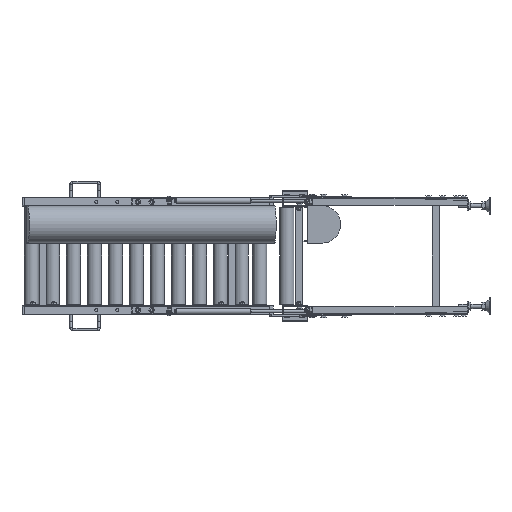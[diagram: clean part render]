
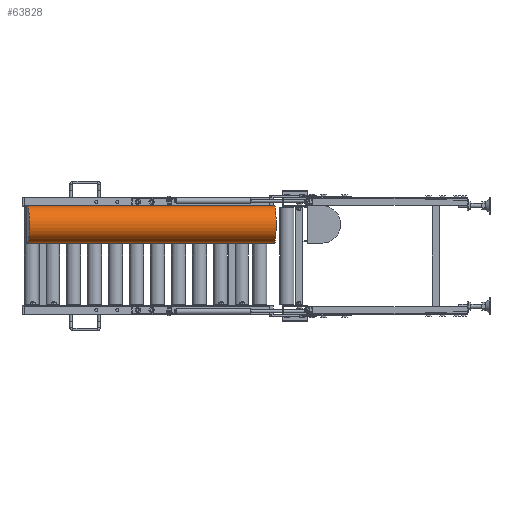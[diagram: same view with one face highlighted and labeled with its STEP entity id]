
A CAD part, left-side view. The second image highlights one B-rep face of the part: STEP entity #63828.
In plain terms, the highlighted cylindrical face has radius 66.89 mm (diameter 133.78 mm), a partial arc.
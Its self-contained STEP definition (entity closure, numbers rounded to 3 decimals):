
#664 = DIRECTION ( 'NONE',  ( 0., 0., 1. ) ) ;
#894 = CARTESIAN_POINT ( 'NONE',  ( -63.444, -158.438, 45.72 ) ) ;
#6859 = CIRCLE ( 'NONE', #53267, 66.89 ) ;
#10911 = VECTOR ( 'NONE', #59822, 1000. ) ;
#12700 = EDGE_LOOP ( 'NONE', ( #13209, #75561, #55033, #44538 ) ) ;
#12736 = VERTEX_POINT ( 'NONE', #60255 ) ;
#13209 = ORIENTED_EDGE ( 'NONE', *, *, #72208, .F. ) ;
#13530 = DIRECTION ( 'NONE',  ( -0.087, 0.996, 0. ) ) ;
#18155 = DIRECTION ( 'NONE',  ( -0.087, 0.996, 0. ) ) ;
#18321 = VERTEX_POINT ( 'NONE', #19798 ) ;
#19798 = CARTESIAN_POINT ( 'NONE',  ( -155.735, 897.187, 45.72 ) ) ;
#19893 = VERTEX_POINT ( 'NONE', #37710 ) ;
#22412 = FACE_OUTER_BOUND ( 'NONE', #12700, .T. ) ;
#22710 = CARTESIAN_POINT ( 'NONE',  ( -155.735, 897.187, 112.61 ) ) ;
#26678 = DIRECTION ( 'NONE',  ( 0., 0., -1. ) ) ;
#27183 = CARTESIAN_POINT ( 'NONE',  ( -78.917, 18.539, 112.61 ) ) ;
#28184 = AXIS2_PLACEMENT_3D ( 'NONE', #58654, #18155, #664 ) ;
#28840 = AXIS2_PLACEMENT_3D ( 'NONE', #27183, #33061, #26678 ) ;
#29696 = VECTOR ( 'NONE', #13530, 1000. ) ;
#33061 = DIRECTION ( 'NONE',  ( 0.087, -0.996, 0. ) ) ;
#34263 = DIRECTION ( 'NONE',  ( 0., 0., 1. ) ) ;
#36821 = CARTESIAN_POINT ( 'NONE',  ( -63.444, -158.438, 179.5 ) ) ;
#37141 = CYLINDRICAL_SURFACE ( 'NONE', #28184, 66.89 ) ;
#37710 = CARTESIAN_POINT ( 'NONE',  ( -78.917, 18.539, 45.72 ) ) ;
#39318 = EDGE_CURVE ( 'NONE', #66588, #12736, #51044, .T. ) ;
#43674 = CARTESIAN_POINT ( 'NONE',  ( -78.917, 18.539, 179.5 ) ) ;
#44538 = ORIENTED_EDGE ( 'NONE', *, *, #50698, .F. ) ;
#47852 = EDGE_CURVE ( 'NONE', #12736, #18321, #6859, .T. ) ;
#50698 = EDGE_CURVE ( 'NONE', #19893, #18321, #65316, .T. ) ;
#51044 = LINE ( 'NONE', #36821, #29696 ) ;
#52138 = DIRECTION ( 'NONE',  ( 0.087, -0.996, 0. ) ) ;
#53267 = AXIS2_PLACEMENT_3D ( 'NONE', #22710, #52138, #34263 ) ;
#55033 = ORIENTED_EDGE ( 'NONE', *, *, #47852, .T. ) ;
#58654 = CARTESIAN_POINT ( 'NONE',  ( -63.444, -158.438, 112.61 ) ) ;
#59822 = DIRECTION ( 'NONE',  ( -0.087, 0.996, 0. ) ) ;
#60255 = CARTESIAN_POINT ( 'NONE',  ( -155.735, 897.187, 179.5 ) ) ;
#63828 = ADVANCED_FACE ( 'NONE', ( #22412 ), #37141, .T. ) ;
#65316 = LINE ( 'NONE', #894, #10911 ) ;
#66588 = VERTEX_POINT ( 'NONE', #43674 ) ;
#69137 = CIRCLE ( 'NONE', #28840, 66.89 ) ;
#72208 = EDGE_CURVE ( 'NONE', #66588, #19893, #69137, .T. ) ;
#75561 = ORIENTED_EDGE ( 'NONE', *, *, #39318, .T. ) ;
